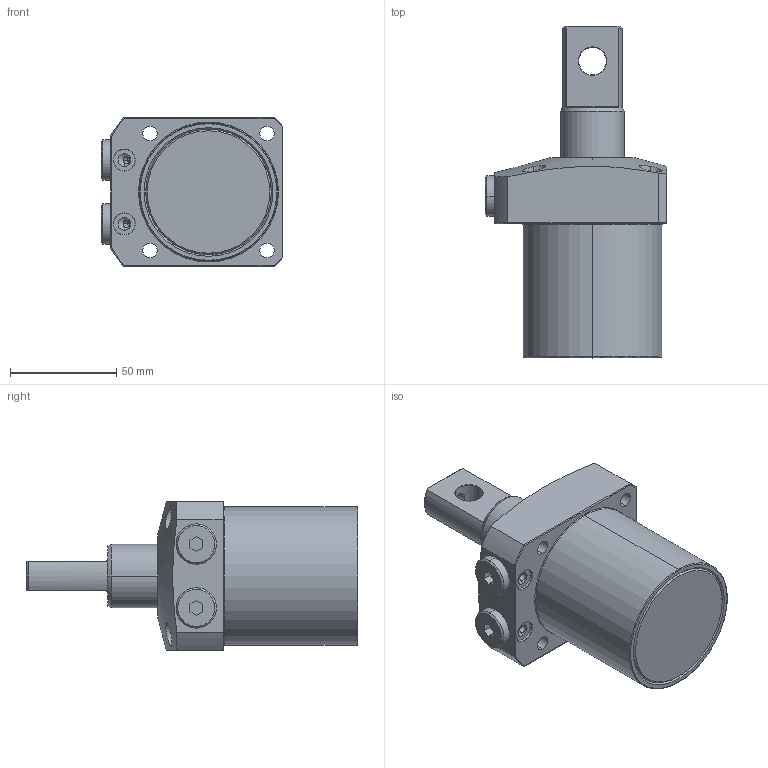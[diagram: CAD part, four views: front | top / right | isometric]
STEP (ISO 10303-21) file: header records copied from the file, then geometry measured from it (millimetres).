
FILE_DESCRIPTION(/* description */ (''),/* implementation_level */ '2;1');
FILE_NAME(/* name */ 'KTRC65-P.stp',/* time_stamp */ '2022-11-17T15:40:41+08:00',/* author */ (''),/* organization */ (''),/* preprocessor_version */ 'ST-DEVELOPER v16.7',/* originating_system */ 'SIEMENS PLM Software NX 12.0',/* authorisation */ '');
FILE_SCHEMA (('AP203_CONFIGURATION_CONTROLLED_3D_DESIGN_OF_MECHANICAL_PARTS_AND_ASSEMBLIES_MIM_LF { 1 0 10303 403 2 1 2}'));
Length unit declared in the file: millimetre
Products named in the file (4): KTRC65-P-01; KTRC65-P-02; KTRC65-P-03; LHA0650-Cx-P_rev1_step
Assembly tree (4 placements, depth 2):
  LHA0650-Cx-P_rev1_step
    KTRC65-P-03  x2
    KTRC65-P-02
    KTRC65-P-01
Bounding box: 85.5 x 156 x 70 mm (x, y, z)
Volume: 390379.4 mm3; surface area: 45530.9 mm2
Topology: 4 solids, 4 shells, 154 faces, 351 edges, 219 vertices
Faces by surface type: cylinder 61, plane 48, cone 35, torus 10
Entity records: 4959 total; most frequent: CARTESIAN_POINT 1261, DIRECTION 700, ORIENTED_EDGE 646, EDGE_CURVE 323, AXIS2_PLACEMENT_3D 285, VERTEX_POINT 201, EDGE_LOOP 170, ADVANCED_FACE 141
